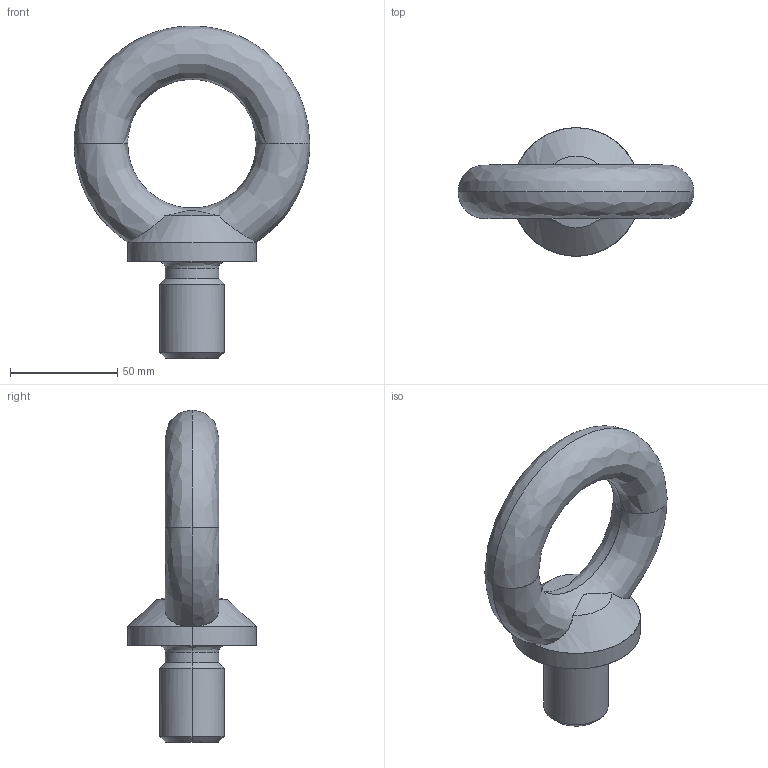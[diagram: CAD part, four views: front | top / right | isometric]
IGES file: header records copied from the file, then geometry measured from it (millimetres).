
Global section: file name: E:\UnigraphicsGraphicData\MISUMI_PRESS-PARTS\IGES\3d_chi30_03525_r00.igs; native system: NX V5.0; preprocessor: UGS NX IGES V5.0; author: MISUMI; date: 20110105.160218; units: millimetre
Bounding box: 110 x 60 x 154.99 mm (x, y, z)
Surface area: 29108.3 mm2 (no closed solid volume)
Topology: 0 solids, 0 shells, 22 faces, 156 edges, 156 vertices
Faces by surface type: bspline 22
